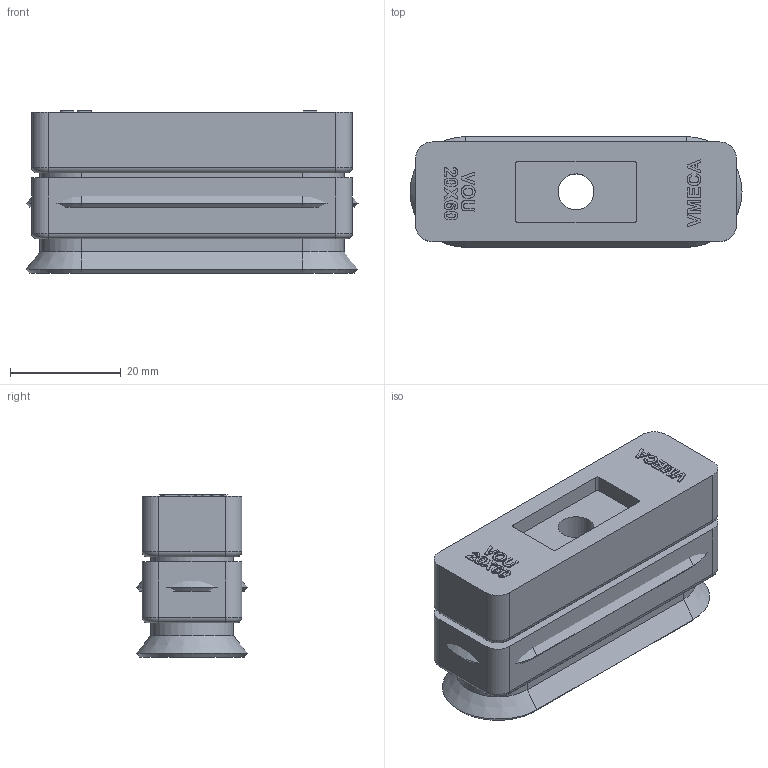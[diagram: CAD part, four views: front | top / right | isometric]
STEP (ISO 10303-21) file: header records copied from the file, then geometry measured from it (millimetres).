
FILE_DESCRIPTION( ( 'Unknown' ), '1' );
FILE_NAME( 'C:/Documents and Settings/Leeho/官帕 拳搁/VOU 20X60.stp', 'Unknown', ( 'Unknown' ), ( 'Unknown' ), 'PSStep 10.0', 'Unknown', ' ' );
FILE_SCHEMA( ( 'automotive_design' ) );
Length unit declared in the file: millimetre
Products named in the file (2): Assem1; 20X60_STP
Bounding box: 60 x 20 x 29.3 mm (x, y, z)
Volume: 31432.2 mm3; surface area: 10601.5 mm2
Topology: 2 solids, 2 shells, 290 faces, 706 edges, 460 vertices
Faces by surface type: extrusion 172, plane 72, cylinder 30, torus 8, cone 8
Full cylindrical faces by diameter (mm): 6.5 x2
Entity records: 6338 total; most frequent: CARTESIAN_POINT 1926, ORIENTED_EDGE 690, DIRECTION 490, EDGE_CURVE 345, VECTOR 292, VERTEX_POINT 230, LINE 206, B_SPLINE_CURVE_WITH_KNOTS 187
